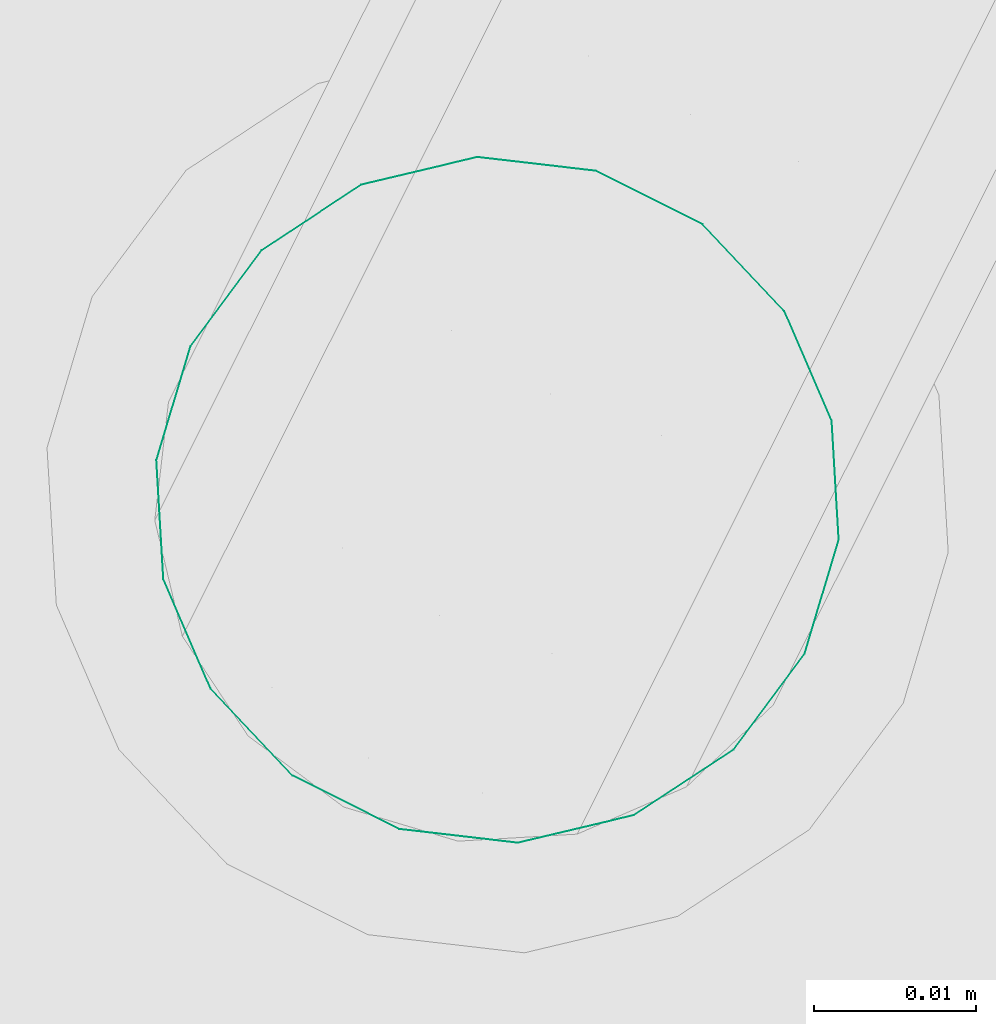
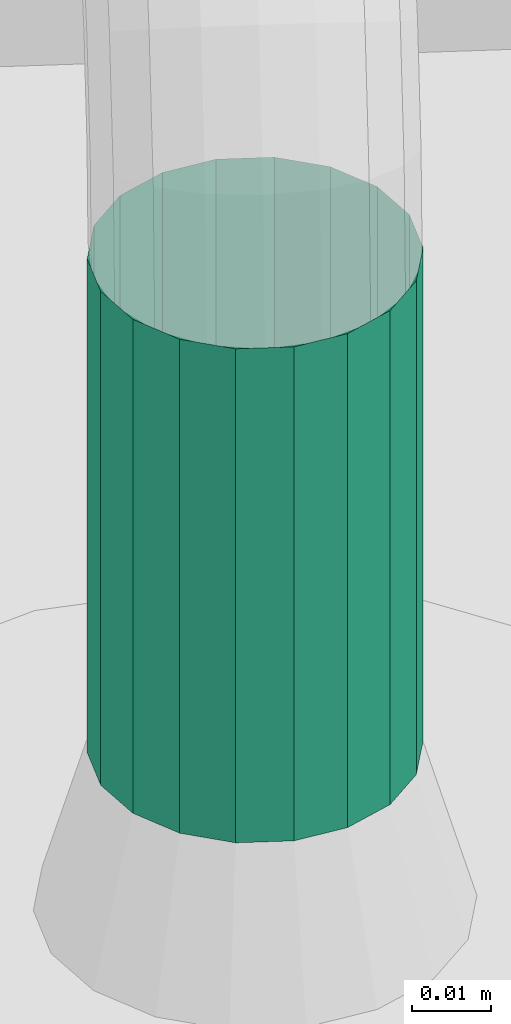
# One storey, part 173 of 206: 1 flow segment.
"""IFC2X3 building model written with IfcOpenShell, lengths in metres."""

from ifc_helpers import new_model, si_unit, derived_unit, direction, frame, origin, place, context, subcontext, project, spatial, face_set, surface_model, source, transform, mapped, material, type_object, type_shapes, element, save


model = new_model("IFC2X3")

# Units and contexts
model_context = context("Model", 3, precision=5.2338327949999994e-05, world=origin(), true_north=direction((0.0, 1.0)))
body_context = subcontext(model_context, "Body", "Model", "MODEL_VIEW")
ifc_project = project(units=[si_unit("LENGTHUNIT", "METRE"), si_unit("AREAUNIT", "SQUARE_METRE"), si_unit("VOLUMEUNIT", "CUBIC_METRE"), si_unit("MASSUNIT", "GRAM", prefix="KILO"), si_unit("PLANEANGLEUNIT", "RADIAN"), derived_unit("THERMALTRANSMITTANCEUNIT", [(si_unit("MASSUNIT", "GRAM", prefix="KILO"), 1), (si_unit("THERMODYNAMICTEMPERATUREUNIT", "KELVIN"), -1), (si_unit("TIMEUNIT", "SECOND"), -3)])], contexts=[model_context])

# Site, building, storey
site_placement = place(None, frame((0.0, 0.0, 0.0), z_axis=(0.0, 0.0, 1.0), x_axis=(0.8939966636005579, -0.4480736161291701, 0.0)))
site = spatial("IfcSite", under=ifc_project, at=site_placement, Name="Default", CompositionType="ELEMENT")
building_placement = place(site_placement, origin())
building = spatial("IfcBuilding", under=site, at=building_placement, CompositionType="ELEMENT")
storey_placement = place(building_placement, origin())
storey = spatial("IfcBuildingStorey", under=building, at=storey_placement, Name="Erdgeschoss", CompositionType="ELEMENT", Elevation=0.0)

# Flow segment
ifc_material = material(Name="IfcSurfaceStyle #352577")
distribution_element_type = type_object("IfcDistributionElementType", Name="Stahlrohr nach DIN 2448 612518:Stahlrohr nach DIN 2448 612518", material=ifc_material)
shared_shape = source(origin(), body_context, "Body", "SurfaceModel", [
    surface_model("IfcFaceBasedSurfaceModel", [(30.576800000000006, 8.473570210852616, 2.2659999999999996), (30.578078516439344, 8.480821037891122, 2.2659999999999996), (30.578078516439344, 8.480821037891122, 2.19), (30.576800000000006, 8.473570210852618, 2.19), (30.581759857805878, 8.48719730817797, 2.2659999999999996), (30.581759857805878, 8.48719730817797, 2.19), (30.5874, 8.491929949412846, 2.2659999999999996), (30.587400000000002, 8.491929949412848, 2.19), (30.594318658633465, 8.494448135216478, 2.2659999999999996), (30.59431865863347, 8.494448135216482, 2.19), (30.601681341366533, 8.494448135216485, 2.2659999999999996), (30.601681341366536, 8.494448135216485, 2.19), (30.6086, 8.49192994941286, 2.2659999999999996), (30.608600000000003, 8.491929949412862, 2.19), (30.614240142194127, 8.48719730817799, 2.2659999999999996), (30.614240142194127, 8.48719730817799, 2.19), (30.617921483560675, 8.480821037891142, 2.2659999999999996), (30.617921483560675, 8.48082103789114, 2.19), (30.619200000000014, 8.473570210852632, 2.2659999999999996), (30.619200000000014, 8.473570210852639, 2.19), (30.617921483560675, 8.46631938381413, 2.2659999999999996), (30.617921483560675, 8.466319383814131, 2.19), (30.614240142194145, 8.459943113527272, 2.2659999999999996), (30.614240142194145, 8.45994311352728, 2.19), (30.608600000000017, 8.455210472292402, 2.2659999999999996), (30.608600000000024, 8.455210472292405, 2.19), (30.601681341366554, 8.452692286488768, 2.2659999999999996), (30.60168134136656, 8.45269228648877, 2.19), (30.594318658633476, 8.452692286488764, 2.2659999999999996), (30.594318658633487, 8.452692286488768, 2.19), (30.58740000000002, 8.455210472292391, 2.2659999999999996), (30.587400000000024, 8.455210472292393, 2.19), (30.581759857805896, 8.459943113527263, 2.2659999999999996), (30.581759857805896, 8.459943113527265, 2.19), (30.578078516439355, 8.466319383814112, 2.2659999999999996), (30.578078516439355, 8.466319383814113, 2.19)], [face_set([[[0, 1, 2, 3]], [[1, 4, 5, 2]], [[4, 6, 7, 5]], [[6, 8, 9, 7]], [[8, 10, 11, 9]], [[10, 12, 13, 11]], [[12, 14, 15, 13]], [[14, 16, 17, 15]], [[16, 18, 19, 17]], [[18, 20, 21, 19]], [[20, 22, 23, 21]], [[22, 24, 25, 23]], [[24, 26, 27, 25]], [[26, 28, 29, 27]], [[28, 30, 31, 29]], [[30, 32, 33, 31]], [[32, 34, 35, 33]], [[34, 0, 3, 35]]])]),
])
type_shapes(distribution_element_type, [shared_shape])
flow_segment_placement = place(storey_placement, origin())
element("IfcFlowSegment", 1, at=flow_segment_placement, inside=storey, type_object=distribution_element_type, material=ifc_material, Name="Stahlrohr nach DIN 2448", ObjectType="Stahlrohr nach DIN 2448", context=body_context, shape_type="MappedRepresentation", body=[
    mapped(shared_shape, transform((0.0, 0.0, 0.0), scale=1.0)),
])

save(model, "model.ifc")
